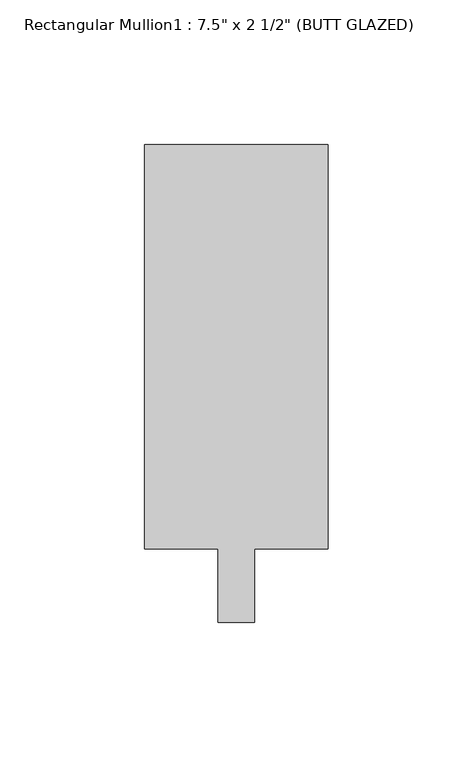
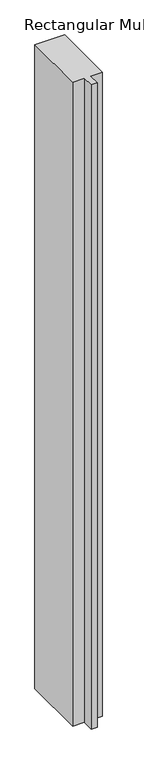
"""IFC4 building model written with IfcOpenShell, lengths in millimetres: member geometry."""

from ifc_helpers import new_model, si_unit, frame, origin, place, context, project, spatial, polyline, outline, extrude, source, transform, mapped, element, save


def member_5f7e36b8(model_context):
    return source(origin(), model_context, "Body", "SweptSolid", [
        extrude(outline(polyline([(31.75, 165.1), (31.75, 25.4), (6.35, 25.4), (6.35, 0.0), (-6.35, 0.0), (-6.35, 25.4), (-31.75, 25.4), (-31.75, 165.1), (31.75, 165.1)])), frame((0.0, 0.0, -1460.5), z_axis=(0.0, 0.0, 1.0), x_axis=(1.0, 0.0, 0.0)), (0.0, 0.0, 1.0), 1460.5),
    ])


if __name__ == "__main__":
    model = new_model("IFC4")
    model_context = context("Model", 3, world=origin())
    ifc_project = project(units=[si_unit("LENGTHUNIT", "METRE", prefix="MILLI")], contexts=[model_context])
    site = spatial("IfcSite", under=ifc_project)
    building = spatial("IfcBuilding", under=site)
    placement = place(None, origin())
    member_shape = member_5f7e36b8(model_context)
    element("IfcMember", 1, ObjectType="Rectangular Mullion1 : 7.5\" x 2 1/2\" (BUTT GLAZED)", at=placement, inside=building, context=model_context, shape_type="MappedRepresentation", body=[
        mapped(member_shape, transform((0.0, 0.0, 0.0), x_axis=(1.0, 0.0, 0.0), y_axis=(0.0, 1.0, 0.0), z_axis=(0.0, 0.0, 1.0))),
    ])
    save(model, "model.ifc")
